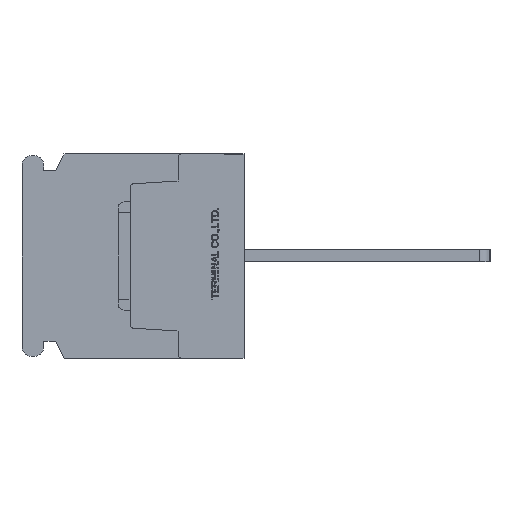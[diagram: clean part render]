
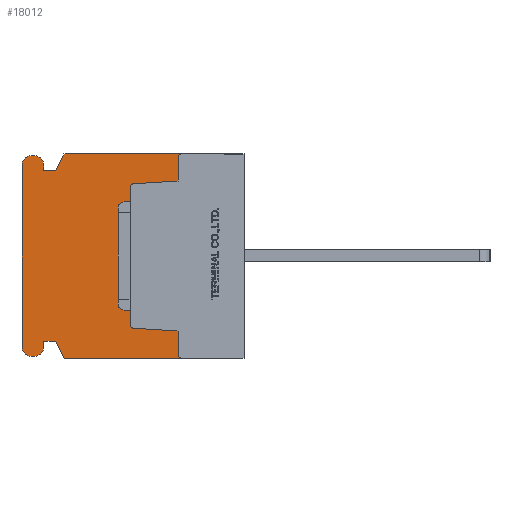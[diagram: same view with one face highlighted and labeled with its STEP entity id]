
A CAD part, left-side view. The second image highlights one B-rep face of the part: STEP entity #18012.
In plain terms, the highlighted planar face has unit normal (-1, 0, 0).
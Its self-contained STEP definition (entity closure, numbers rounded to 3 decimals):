
#1065=CIRCLE('',#19187,0.3);
#1067=CIRCLE('',#19191,0.3);
#1069=CIRCLE('',#19196,0.3);
#1071=CIRCLE('',#19199,0.3);
#1080=CIRCLE('',#19356,0.75);
#1081=CIRCLE('',#19357,0.75);
#1082=CIRCLE('',#19358,0.75);
#1083=CIRCLE('',#19359,0.75);
#2080=VERTEX_POINT('',#26847);
#2081=VERTEX_POINT('',#26849);
#2106=VERTEX_POINT('',#26905);
#2107=VERTEX_POINT('',#26907);
#2420=VERTEX_POINT('',#28022);
#2421=VERTEX_POINT('',#28023);
#2424=VERTEX_POINT('',#28031);
#2438=VERTEX_POINT('',#28061);
#2440=VERTEX_POINT('',#28067);
#2442=VERTEX_POINT('',#28073);
#2444=VERTEX_POINT('',#28079);
#2446=VERTEX_POINT('',#28088);
#2793=VERTEX_POINT('',#29630);
#2794=VERTEX_POINT('',#29632);
#2795=VERTEX_POINT('',#29634);
#2796=VERTEX_POINT('',#29636);
#2797=VERTEX_POINT('',#29638);
#2798=VERTEX_POINT('',#29640);
#2799=VERTEX_POINT('',#29642);
#2800=VERTEX_POINT('',#29644);
#2801=VERTEX_POINT('',#29646);
#2802=VERTEX_POINT('',#29648);
#2803=VERTEX_POINT('',#29650);
#2804=VERTEX_POINT('',#29652);
#3927=VECTOR('',#21530,1.);
#3956=VECTOR('',#21563,1.);
#4272=VECTOR('',#22460,1.);
#4289=VECTOR('',#22484,1.);
#4293=VECTOR('',#22495,1.);
#4296=VECTOR('',#22499,1.);
#4300=VECTOR('',#22516,1.);
#4713=VECTOR('',#23094,1.);
#4714=VECTOR('',#23095,1.);
#4715=VECTOR('',#23096,1.);
#4716=VECTOR('',#23099,1.);
#4717=VECTOR('',#23102,1.);
#4718=VECTOR('',#23105,1.);
#4719=VECTOR('',#23108,1.);
#4720=VECTOR('',#23109,1.);
#4721=VECTOR('',#23110,1.);
#5837=LINE('',#26848,#3927);
#5866=LINE('',#26906,#3956);
#6182=LINE('',#28021,#4272);
#6199=LINE('',#28060,#4289);
#6203=LINE('',#28072,#4293);
#6206=LINE('',#28078,#4296);
#6210=LINE('',#28093,#4300);
#6623=LINE('',#29629,#4713);
#6624=LINE('',#29631,#4714);
#6625=LINE('',#29633,#4715);
#6626=LINE('',#29637,#4716);
#6627=LINE('',#29641,#4717);
#6628=LINE('',#29645,#4718);
#6629=LINE('',#29649,#4719);
#6630=LINE('',#29651,#4720);
#6631=LINE('',#29653,#4721);
#8146=EDGE_CURVE('',#2080,#2081,#5837,.T.);
#8176=EDGE_CURVE('',#2106,#2107,#5866,.T.);
#8671=EDGE_CURVE('',#2420,#2421,#6182,.T.);
#8675=EDGE_CURVE('',#2424,#2420,#1065,.T.);
#8690=EDGE_CURVE('',#2438,#2424,#6199,.T.);
#8693=EDGE_CURVE('',#2440,#2438,#1067,.T.);
#8696=EDGE_CURVE('',#2442,#2440,#6203,.T.);
#8699=EDGE_CURVE('',#2444,#2442,#6206,.T.);
#8702=EDGE_CURVE('',#2081,#2444,#1069,.T.);
#8704=EDGE_CURVE('',#2446,#2106,#1071,.T.);
#8707=EDGE_CURVE('',#2421,#2446,#6210,.T.);
#9231=EDGE_CURVE('',#2793,#2080,#6623,.T.);
#9232=EDGE_CURVE('',#2794,#2793,#6624,.T.);
#9233=EDGE_CURVE('',#2795,#2794,#6625,.T.);
#9234=EDGE_CURVE('',#2796,#2795,#1080,.T.);
#9235=EDGE_CURVE('',#2797,#2796,#6626,.T.);
#9236=EDGE_CURVE('',#2798,#2797,#1081,.T.);
#9237=EDGE_CURVE('',#2799,#2798,#6627,.T.);
#9238=EDGE_CURVE('',#2800,#2799,#1082,.T.);
#9239=EDGE_CURVE('',#2801,#2800,#6628,.T.);
#9240=EDGE_CURVE('',#2802,#2801,#1083,.T.);
#9241=EDGE_CURVE('',#2803,#2802,#6629,.T.);
#9242=EDGE_CURVE('',#2804,#2803,#6630,.T.);
#9243=EDGE_CURVE('',#2107,#2804,#6631,.T.);
#14357=ORIENTED_EDGE('',*,*,#8702,.F.);
#14358=ORIENTED_EDGE('',*,*,#8146,.F.);
#14359=ORIENTED_EDGE('',*,*,#9231,.F.);
#14360=ORIENTED_EDGE('',*,*,#9232,.F.);
#14361=ORIENTED_EDGE('',*,*,#9233,.F.);
#14362=ORIENTED_EDGE('',*,*,#9234,.F.);
#14363=ORIENTED_EDGE('',*,*,#9235,.F.);
#14364=ORIENTED_EDGE('',*,*,#9236,.F.);
#14365=ORIENTED_EDGE('',*,*,#9237,.F.);
#14366=ORIENTED_EDGE('',*,*,#9238,.F.);
#14367=ORIENTED_EDGE('',*,*,#9239,.F.);
#14368=ORIENTED_EDGE('',*,*,#9240,.F.);
#14369=ORIENTED_EDGE('',*,*,#9241,.F.);
#14370=ORIENTED_EDGE('',*,*,#9242,.F.);
#14371=ORIENTED_EDGE('',*,*,#9243,.F.);
#14372=ORIENTED_EDGE('',*,*,#8176,.F.);
#14373=ORIENTED_EDGE('',*,*,#8704,.F.);
#14374=ORIENTED_EDGE('',*,*,#8707,.F.);
#14375=ORIENTED_EDGE('',*,*,#8671,.F.);
#14376=ORIENTED_EDGE('',*,*,#8675,.F.);
#14377=ORIENTED_EDGE('',*,*,#8690,.F.);
#14378=ORIENTED_EDGE('',*,*,#8693,.F.);
#14379=ORIENTED_EDGE('',*,*,#8696,.F.);
#14380=ORIENTED_EDGE('',*,*,#8699,.F.);
#15826=EDGE_LOOP('',(#14357,#14358,#14359,#14360,#14361,#14362,#14363,#14364,
#14365,#14366,#14367,#14368,#14369,#14370,#14371,#14372,#14373,#14374,#14375,
#14376,#14377,#14378,#14379,#14380));
#16976=FACE_BOUND('',#15826,.T.);
#18012=ADVANCED_FACE('',(#16976),#30647,.F.);
#19187=AXIS2_PLACEMENT_3D('',#28030,#22466,#22467);
#19191=AXIS2_PLACEMENT_3D('',#28066,#22489,#22490);
#19196=AXIS2_PLACEMENT_3D('',#28084,#22504,#22505);
#19199=AXIS2_PLACEMENT_3D('',#28087,#22510,#22511);
#19355=AXIS2_PLACEMENT_3D('',#29628,#23093,$);
#19356=AXIS2_PLACEMENT_3D('',#29635,#23097,#23098);
#19357=AXIS2_PLACEMENT_3D('',#29639,#23100,#23101);
#19358=AXIS2_PLACEMENT_3D('',#29643,#23103,#23104);
#19359=AXIS2_PLACEMENT_3D('',#29647,#23106,#23107);
#21530=DIRECTION('',(0.,-1.,0.));
#21563=DIRECTION('',(0.,1.,0.));
#22460=DIRECTION('',(0.,-0.998,-0.062));
#22466=DIRECTION('',(-1.,0.,0.));
#22467=DIRECTION('',(0.,0.,-0.3));
#22484=DIRECTION('',(0.,0.,-1.));
#22489=DIRECTION('',(-1.,0.,0.));
#22490=DIRECTION('',(0.,0.,-0.3));
#22495=DIRECTION('',(0.,0.998,-0.062));
#22499=DIRECTION('',(0.,0.,-1.));
#22504=DIRECTION('',(-1.,0.,0.));
#22505=DIRECTION('',(0.,0.,-0.3));
#22510=DIRECTION('',(-1.,0.,0.));
#22511=DIRECTION('',(0.,0.,-0.3));
#22516=DIRECTION('',(0.,0.,-1.));
#23093=DIRECTION('',(1.,0.,0.));
#23094=DIRECTION('',(0.,-0.447,0.894));
#23095=DIRECTION('',(0.,-1.,0.));
#23096=DIRECTION('',(0.,0.,-1.));
#23097=DIRECTION('',(1.,0.,0.));
#23098=DIRECTION('',(0.,0.,-0.75));
#23099=DIRECTION('',(0.,-1.,0.));
#23100=DIRECTION('',(1.,0.,0.));
#23101=DIRECTION('',(0.,0.,-0.75));
#23102=DIRECTION('',(0.,0.,1.));
#23103=DIRECTION('',(1.,0.,0.));
#23104=DIRECTION('',(0.,0.,-0.75));
#23105=DIRECTION('',(0.,1.,0.));
#23106=DIRECTION('',(1.,0.,0.));
#23107=DIRECTION('',(0.,0.,-0.75));
#23108=DIRECTION('',(0.,0.,-1.));
#23109=DIRECTION('',(0.,1.,0.));
#23110=DIRECTION('',(0.,0.447,0.894));
#26847=CARTESIAN_POINT('',(0.,15.,8.5));
#26848=CARTESIAN_POINT('',(0.,15.,8.5));
#26849=CARTESIAN_POINT('',(0.,5.2,8.5));
#26905=CARTESIAN_POINT('',(0.,5.2,-8.5));
#26906=CARTESIAN_POINT('',(0.,0.,-8.5));
#26907=CARTESIAN_POINT('',(0.,15.,-8.5));
#28021=CARTESIAN_POINT('',(0.,9.219,-6.018));
#28022=CARTESIAN_POINT('',(0.,9.219,-6.018));
#28023=CARTESIAN_POINT('',(0.,5.5,-6.25));
#28030=CARTESIAN_POINT('',(0.,9.2,-5.718));
#28031=CARTESIAN_POINT('',(0.,9.5,-5.718));
#28060=CARTESIAN_POINT('',(0.,9.5,5.718));
#28061=CARTESIAN_POINT('',(0.,9.5,5.718));
#28066=CARTESIAN_POINT('',(0.,9.2,5.718));
#28067=CARTESIAN_POINT('',(0.,9.219,6.018));
#28072=CARTESIAN_POINT('',(0.,5.5,6.25));
#28073=CARTESIAN_POINT('',(0.,5.5,6.25));
#28078=CARTESIAN_POINT('',(0.,5.5,8.2));
#28079=CARTESIAN_POINT('',(0.,5.5,8.2));
#28084=CARTESIAN_POINT('',(0.,5.2,8.2));
#28087=CARTESIAN_POINT('',(0.,5.2,-8.2));
#28088=CARTESIAN_POINT('',(0.,5.5,-8.2));
#28093=CARTESIAN_POINT('',(0.,5.5,-6.25));
#29628=CARTESIAN_POINT('',(0.,9.463,0.));
#29629=CARTESIAN_POINT('',(0.,15.7,7.1));
#29630=CARTESIAN_POINT('',(0.,15.7,7.1));
#29631=CARTESIAN_POINT('',(0.,16.7,7.1));
#29632=CARTESIAN_POINT('',(0.,16.7,7.1));
#29633=CARTESIAN_POINT('',(0.,16.7,7.6));
#29634=CARTESIAN_POINT('',(0.,16.7,7.6));
#29635=CARTESIAN_POINT('',(0.,17.45,7.6));
#29636=CARTESIAN_POINT('',(0.,17.45,8.35));
#29637=CARTESIAN_POINT('',(0.,17.75,8.35));
#29638=CARTESIAN_POINT('',(0.,17.75,8.35));
#29639=CARTESIAN_POINT('',(0.,17.75,7.6));
#29640=CARTESIAN_POINT('',(0.,18.5,7.6));
#29641=CARTESIAN_POINT('',(0.,18.5,-7.6));
#29642=CARTESIAN_POINT('',(0.,18.5,-7.6));
#29643=CARTESIAN_POINT('',(0.,17.75,-7.6));
#29644=CARTESIAN_POINT('',(0.,17.75,-8.35));
#29645=CARTESIAN_POINT('',(0.,17.45,-8.35));
#29646=CARTESIAN_POINT('',(0.,17.45,-8.35));
#29647=CARTESIAN_POINT('',(0.,17.45,-7.6));
#29648=CARTESIAN_POINT('',(0.,16.7,-7.6));
#29649=CARTESIAN_POINT('',(0.,16.7,-7.1));
#29650=CARTESIAN_POINT('',(0.,16.7,-7.1));
#29651=CARTESIAN_POINT('',(0.,15.7,-7.1));
#29652=CARTESIAN_POINT('',(0.,15.7,-7.1));
#29653=CARTESIAN_POINT('',(0.,15.,-8.5));
#30647=PLANE('',#19355);
